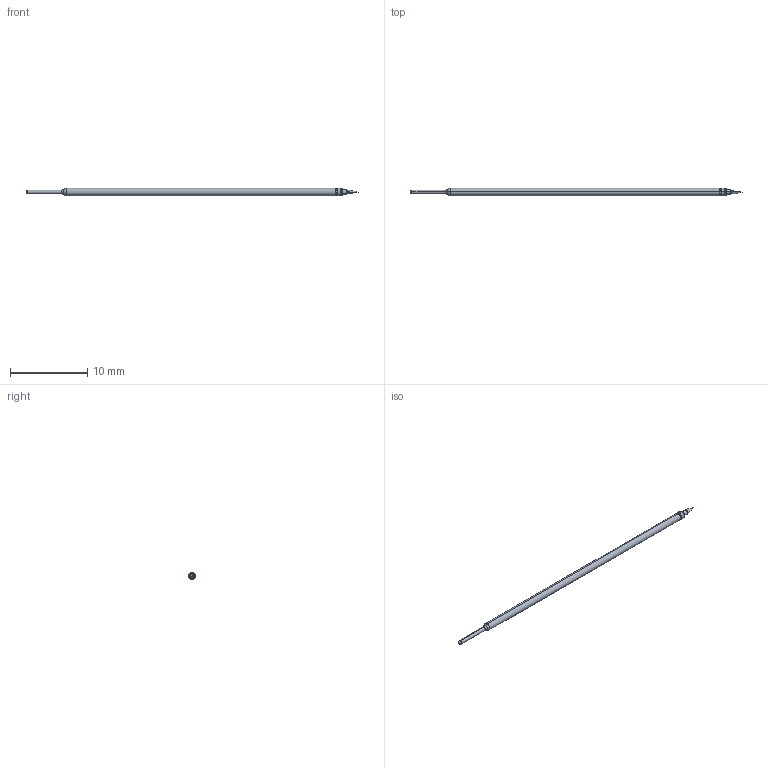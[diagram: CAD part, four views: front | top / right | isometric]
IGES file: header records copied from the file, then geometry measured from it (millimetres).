
Start section: SolidWorks IGES file using analytic representation for surfaces
Global section: file name: C:\Documents and Settings\mrumschlag\Desktop\changes\new\test\T1 FULL.IGS; native system: SolidWorks 2011; preprocessor: SolidWorks 2011; author: mrumschlag; date: 110630.142317; units: inch
Bounding box: 42.93 x 0.97 x 0.97 mm (x, y, z)
Surface area: 119.9 mm2 (no closed solid volume)
Topology: 0 solids, 0 shells, 33 faces, 186 edges, 184 vertices
Faces by surface type: revolution 18, bspline 15
